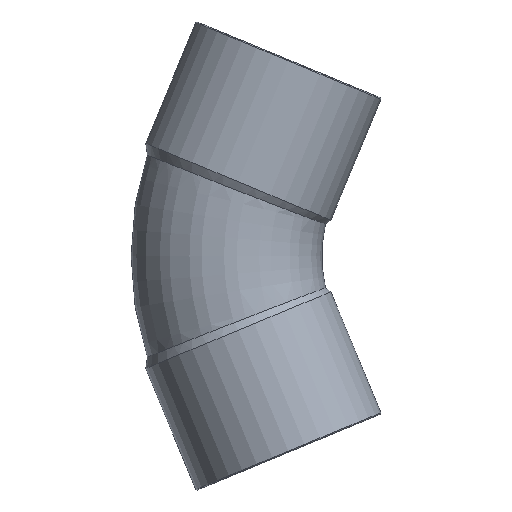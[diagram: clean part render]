
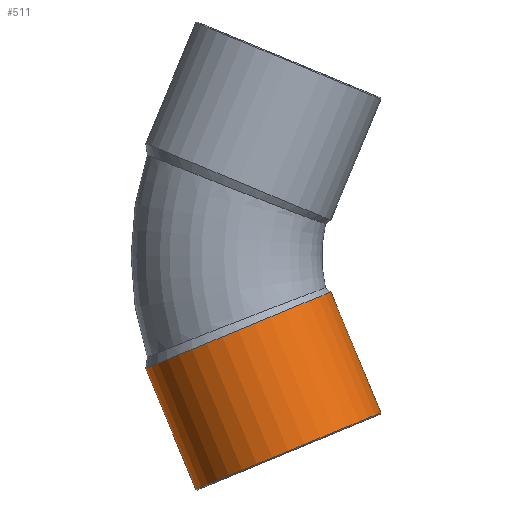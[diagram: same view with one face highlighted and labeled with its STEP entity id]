
A CAD part, front view. The second image highlights one B-rep face of the part: STEP entity #511.
In plain terms, the highlighted cylindrical face has radius 18.4 mm (diameter 36.8 mm), a partial arc.
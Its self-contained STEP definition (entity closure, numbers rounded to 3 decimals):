
#201=CARTESIAN_POINT('',(-52.377,0.,-20.677));
#202=VERTEX_POINT('',#201);
#209=CARTESIAN_POINT('',(-18.378,0.,-6.594));
#210=VERTEX_POINT('',#209);
#211=CARTESIAN_POINT('',(-35.378,0.,-13.635));
#212=DIRECTION('',(-0.383,0.,0.924));
#213=DIRECTION('',(0.924,0.0,0.383));
#214=AXIS2_PLACEMENT_3D('',#211,#212,#213);
#215=CIRCLE('',#214,18.4);
#216=EDGE_CURVE('',#202,#210,#215,.T.);
#480=CARTESIAN_POINT('',(-35.285,0.,-13.858));
#481=DIRECTION('',(0.383,0.,-0.924));
#482=DIRECTION('',(0.924,0.0,0.383));
#483=AXIS2_PLACEMENT_3D('',#480,#481,#482);
#484=CYLINDRICAL_SURFACE('',#483,18.4);
#485=CARTESIAN_POINT('',(-9.178,0.,-28.805));
#486=VERTEX_POINT('',#485);
#487=CARTESIAN_POINT('',(-18.378,0.,-6.594));
#488=DIRECTION('',(0.383,0.,-0.924));
#489=VECTOR('',#488,24.041);
#490=LINE('',#487,#489);
#491=EDGE_CURVE('',#210,#486,#490,.T.);
#492=ORIENTED_EDGE('',*,*,#491,.F.);
#493=ORIENTED_EDGE('',*,*,#216,.F.);
#494=CARTESIAN_POINT('',(-43.177,0.,-42.888));
#495=VERTEX_POINT('',#494);
#496=CARTESIAN_POINT('',(-43.177,0.,-42.888));
#497=DIRECTION('',(-0.383,0.,0.924));
#498=VECTOR('',#497,24.041);
#499=LINE('',#496,#498);
#500=EDGE_CURVE('',#495,#202,#499,.T.);
#501=ORIENTED_EDGE('',*,*,#500,.F.);
#502=CARTESIAN_POINT('',(-26.177,0.,-35.847));
#503=DIRECTION('',(0.383,0.,-0.924));
#504=DIRECTION('',(0.924,0.0,0.383));
#505=AXIS2_PLACEMENT_3D('',#502,#503,#504);
#506=CIRCLE('',#505,18.4);
#507=EDGE_CURVE('',#486,#495,#506,.T.);
#508=ORIENTED_EDGE('',*,*,#507,.F.);
#509=EDGE_LOOP('',(#492,#493,#501,#508));
#510=FACE_OUTER_BOUND('',#509,.T.);
#511=ADVANCED_FACE('',(#510),#484,.T.);
